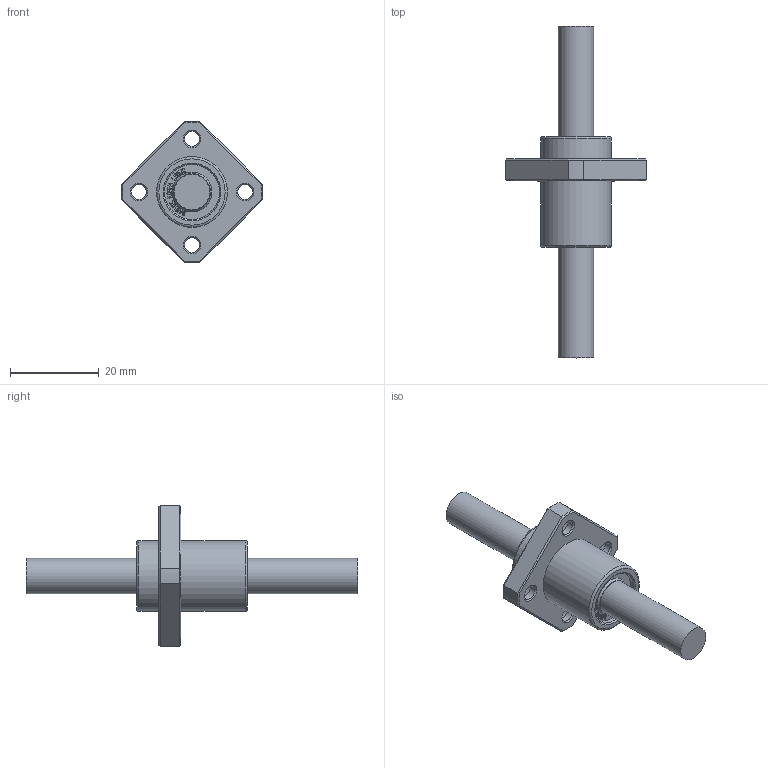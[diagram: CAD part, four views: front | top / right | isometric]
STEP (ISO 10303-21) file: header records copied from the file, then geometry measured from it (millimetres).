
FILE_DESCRIPTION(/* description */ (''),/* implementation_level */ '2;1');
FILE_NAME(/* name */ 'W:\(01) 2024년 홈페이지 CAD파일 최신화\LMEKP\IPT\LMEKP08UU.stp',/* time_stamp */ '2025-01-25T12:55:43+09:00',/* author */ ('서우현'),/* organization */ (''),/* preprocessor_version */ 'ST-DEVELOPER v17.2',/* originating_system */ 'Autodesk Inventor 2019',/* authorisation */ '');
FILE_SCHEMA (('AUTOMOTIVE_DESIGN { 1 0 10303 214 3 1 1 }'));
Length unit declared in the file: millimetre
Products named in the file (1): LM5
Bounding box: 31.98 x 75 x 31.98 mm (x, y, z)
Volume: 8913.7 mm3; surface area: 4306.2 mm2
Topology: 1 solids, 1 shells, 852 faces, 2382 edges, 1588 vertices
Faces by surface type: bspline 580, plane 232, cone 20, cylinder 18, torus 2
Full cylindrical faces by diameter (mm): 3.4 x4, 6.5 x4, 8 x2, 12.4 x2, 16 x2
Entity records: 29241 total; most frequent: CARTESIAN_POINT 10843, ORIENTED_EDGE 4764, EDGE_CURVE 2382, DIRECTION 1842, VERTEX_POINT 1588, B_SPLINE_CURVE_WITH_KNOTS 1160, LINE 1116, VECTOR 1116
